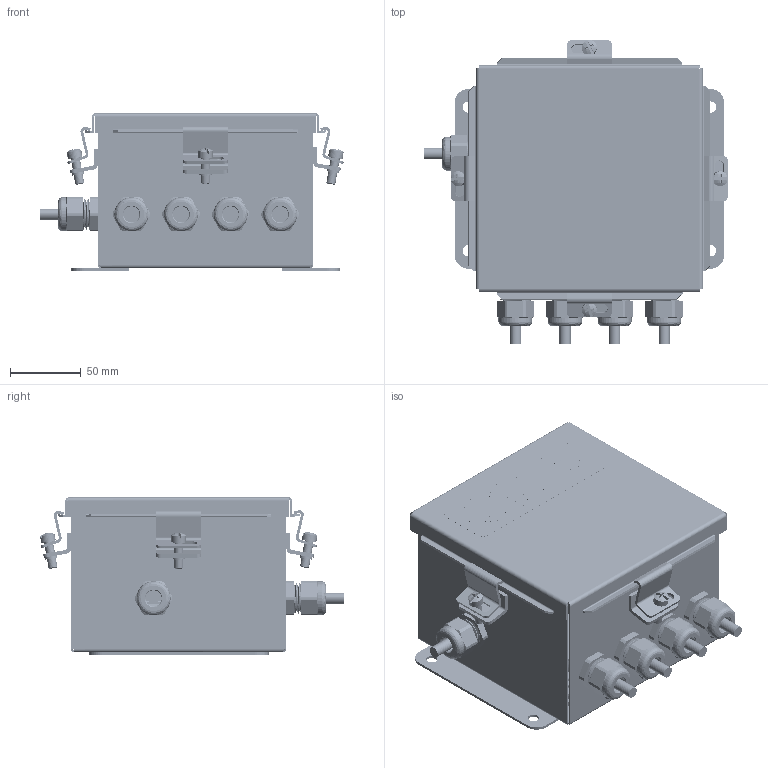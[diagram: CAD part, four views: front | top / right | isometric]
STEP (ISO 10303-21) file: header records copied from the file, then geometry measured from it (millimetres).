
FILE_DESCRIPTION (( 'STEP AP203' ), '1' );
FILE_NAME ('HI6020JB-PS2.STEP', '2021-06-10T20:08:49', ( '' ), ( '' ), 'SwSTEP 2.0', 'SolidWorks 2020', '' );
FILE_SCHEMA (( 'CONFIG_CONTROL_DESIGN' ));
Length unit declared in the file: inch
Products named in the file (24): BN4060604SSBKP.stp; 2140-0137-07-0; 0535-0573-XX-0; 2140-0136-09-0; BN40606SSLID.stp; 6007-0097-0; 0529-0024-01-0; 372135.stp; 0508-0837; 0530-0799-01-0; 0534-0573-01-0; 2817-0182_90400A219; BN4060604SS.stp; 4617-0010-0; 2814-0095-0; 34853.stp; HFW3883.stp; 2140-0137-09-0; C2002.stp; 34973.stp; C2001.stp; 2140-0136-07-0; HI6020JB-PS2; 0530-0797-01-0
Assembly tree (62 placements, depth 4):
  HI6020JB-PS2
    0535-0573-XX-0
      0534-0573-01-0
      4617-0010-0  x4
      2140-0136-07-0  x4
      2140-0137-07-0  x4
      2140-0136-09-0  x2
      2140-0137-09-0  x2
    0508-0837
      BN4060604SS.stp
        34973.stp  x4
        C2002.stp  x4
        372135.stp  x4
        C2001.stp  x4
        BN40606SSLID.stp
        HFW3883.stp
        BN4060604SSBKP.stp
        34853.stp  x2
    2817-0182_90400A219  x4
    6007-0097-0  x5
    2814-0095-0  x5
    0529-0024-01-0  x5
    0530-0797-01-0
    0530-0799-01-0
Bounding box: 214.68 x 214.89 x 111.59 mm (x, y, z)
Volume: 370392.6 mm3; surface area: 444977.6 mm2
Topology: 534 solids, 538 shells, 15334 faces, 39393 edges, 25765 vertices
Faces by surface type: plane 9515, cylinder 2785, bspline 2475, cone 331, torus 148, sphere 80
Entity records: 372182 total; most frequent: CARTESIAN_POINT 151759, ORIENTED_EDGE 48916, DIRECTION 36001, EDGE_CURVE 24458, VECTOR 16981, LINE 16981, VERTEX_POINT 16135, EDGE_LOOP 10231
